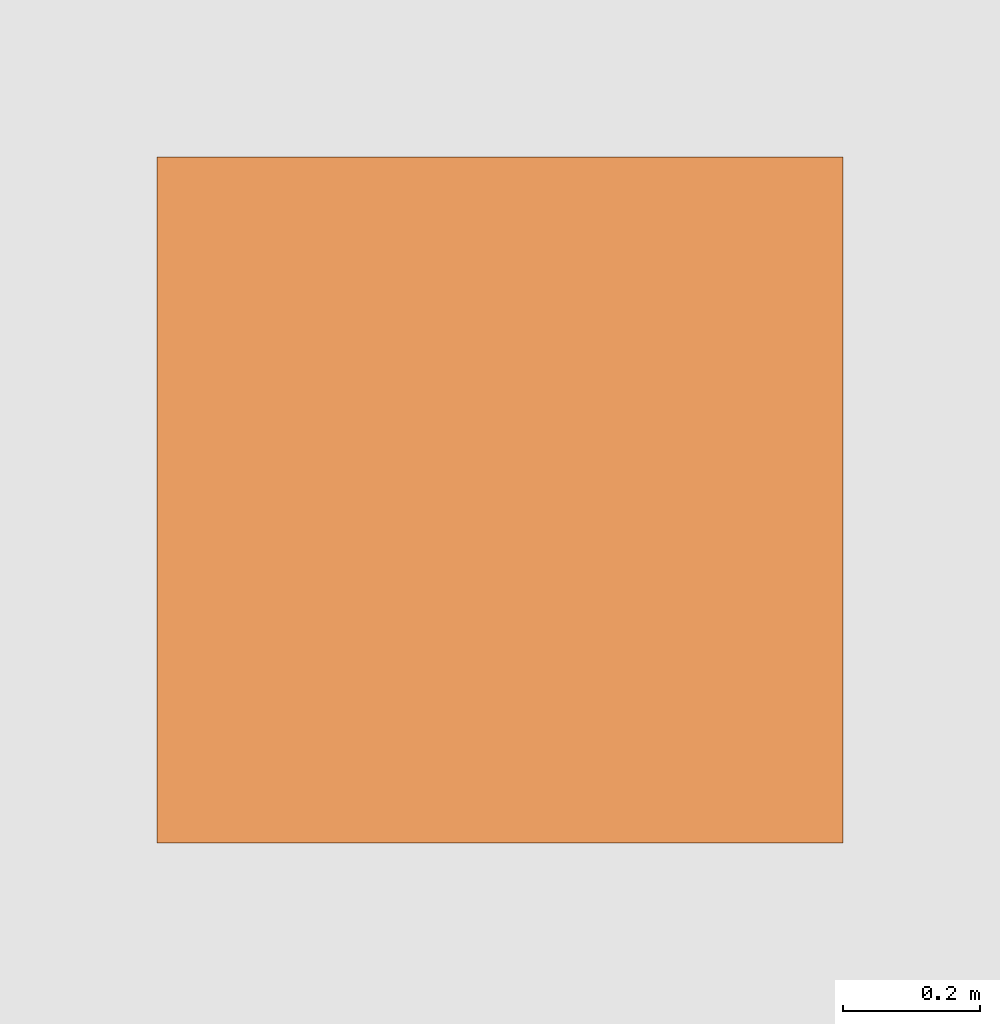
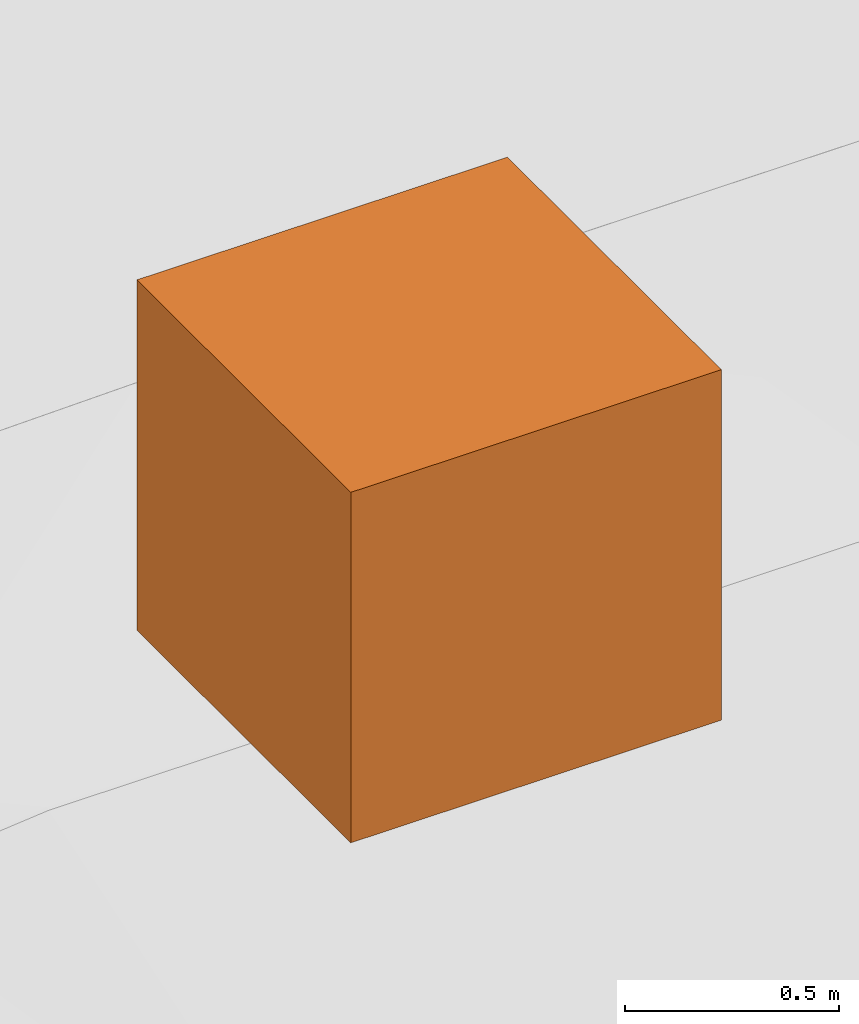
# One storey, part 202 of 246: 2 proxies.
"""IFC2X3 building model written with IfcOpenShell, lengths in millimetres."""

from ifc_helpers import new_model, entity, si_unit, converted_unit, derived_unit, money_unit, direction, frame, origin_with_axes, place, context, subcontext, project, spatial, faceted_brep, source, transform, mapped, material, type_object, element, save


model = new_model("IFC2X3")

# Units and contexts
model_context = context("Model", 3, precision=0.01, world=origin_with_axes(), true_north=direction((0.0, 1.0)))
body_context = subcontext(model_context, "Body", "Model", "MODEL_VIEW")
ifc_project = project(units=[si_unit("LENGTHUNIT", "METRE", prefix="MILLI"), si_unit("AREAUNIT", "SQUARE_METRE"), si_unit("VOLUMEUNIT", "CUBIC_METRE"), converted_unit("PLANEANGLEUNIT", "DEGREE", entity("IfcPlaneAngleMeasure", 0.0174532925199), si_unit("PLANEANGLEUNIT", "RADIAN"), dimensions=[0, 0, 0, 0, 0, 0, 0]), si_unit("SOLIDANGLEUNIT", "STERADIAN"), money_unit("EUR"), converted_unit("TIMEUNIT", "Year", entity("IfcTimeMeasure", 31556926.0), si_unit("TIMEUNIT", "SECOND"), dimensions=[0, 0, 1, 0, 0, 0, 0]), si_unit("MASSUNIT", "GRAM", prefix="KILO"), si_unit("THERMODYNAMICTEMPERATUREUNIT", "DEGREE_CELSIUS"), si_unit("LUMINOUSINTENSITYUNIT", "LUMEN"), si_unit("ENERGYUNIT", "JOULE", prefix="MEGA"), derived_unit("THERMALCONDUCTANCEUNIT", [(si_unit("POWERUNIT", "WATT"), 1), (si_unit("LENGTHUNIT", "METRE"), -1), (si_unit("THERMODYNAMICTEMPERATUREUNIT", "KELVIN"), -1)]), derived_unit("SPECIFICHEATCAPACITYUNIT", [(si_unit("ENERGYUNIT", "JOULE"), 1), (si_unit("MASSUNIT", "GRAM", prefix="KILO"), -1), (si_unit("THERMODYNAMICTEMPERATUREUNIT", "KELVIN"), -1)]), derived_unit("MASSDENSITYUNIT", [(si_unit("MASSUNIT", "GRAM", prefix="KILO"), 1), (si_unit("VOLUMEUNIT", "CUBIC_METRE"), -1)])], contexts=[model_context])

# Site, building, storey
site_placement = place(None, origin_with_axes())
site = spatial("IfcSite", under=ifc_project, at=site_placement, Name="L.Koidula tn 11b", CompositionType="ELEMENT")
building_placement = place(site_placement, origin_with_axes())
building = spatial("IfcBuilding", under=site, at=building_placement, Name="Rakvere Riigigümnaasium", CompositionType="ELEMENT")
storey_placement = place(building_placement, origin_with_axes())
storey = spatial("IfcBuildingStorey", under=building, at=storey_placement, Name="1.korrus 0,00", CompositionType="ELEMENT", Elevation=0.0)

# Proxies
ifc_material = material(Name="KON-00_GENEERILINE - KONSTRUKTSIOON")
building_element_proxy_type = type_object("IfcBuildingElementProxyType", Name="KON-00_GENEERILINE - KONSTRUKTSIOON 1000 x 1000", PredefinedType="NOTDEFINED")
shared_shape = source(origin_with_axes(), body_context, "Body", "Brep", [
    faceted_brep([(0.0, 0.0, 1000.0), (0.0, 0.0, 0.0), (1000.0, 0.0, 0.0), (1000.0, 0.0, 1000.0), (0.0, 1000.0, 1000.0), (0.0, 1000.0, 0.0), (1000.0, 1000.0, 0.0), (1000.0, 1000.0, 1000.0)], [[[0, 1, 2, 3]], [[4, 5, 1, 0]], [[2, 1, 5, 6]], [[3, 2, 6, 7]], [[4, 0, 3, 7]], [[7, 6, 5, 4]]]),
])
for number, where, z_axis, x_axis in (
    (1, (500.0, 500.0, 0.0), (0.0, 0.0, 1.0), (1.0, 0.0, 0.0)),
    (2, (500.0, 500.0, 0.0), (0.0, 0.0, 1.0), (1.0, 0.0, 0.0)),
):
    element("IfcBuildingElementProxy", number, at=place(storey_placement, frame(where, z_axis=z_axis, x_axis=x_axis)), inside=storey, type_object=building_element_proxy_type, material=ifc_material, Name="Nullpunkt", context=body_context, shape_type="MappedRepresentation", body=[
        mapped(shared_shape, transform((-500.0, -500.0, 0.0))),
    ])

save(model, "model.ifc")
